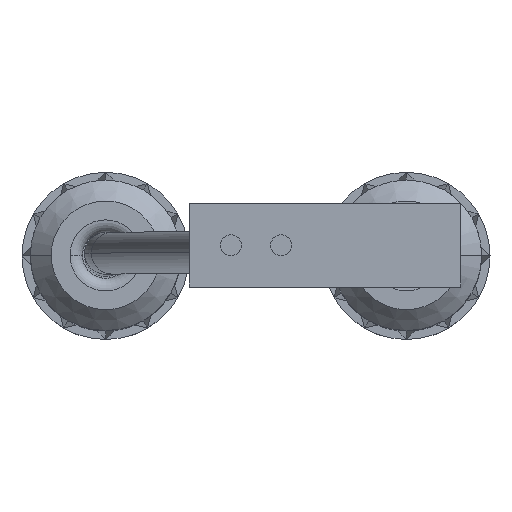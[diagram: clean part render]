
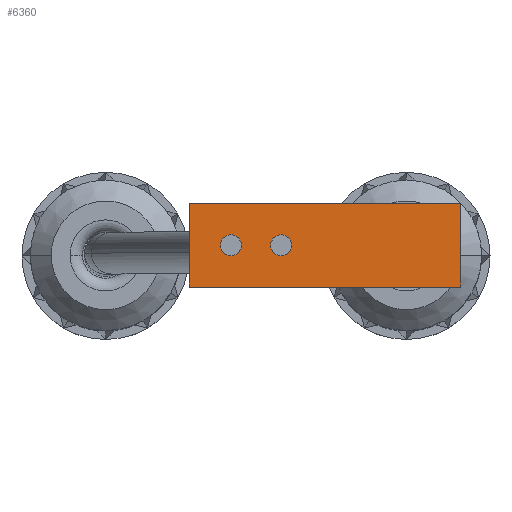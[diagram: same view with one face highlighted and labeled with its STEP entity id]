
A CAD part, top view. The second image highlights one B-rep face of the part: STEP entity #6360.
In plain terms, the highlighted planar face has unit normal (0, 0, 1).
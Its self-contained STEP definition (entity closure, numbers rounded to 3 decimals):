
#10 = CIRCLE ( 'NONE', #4416, 0.25 ) ;
#82 = DIRECTION ( 'NONE',  ( 0., -1., 0. ) ) ;
#326 = ORIENTED_EDGE ( 'NONE', *, *, #5928, .F. ) ;
#415 = AXIS2_PLACEMENT_3D ( 'NONE', #4234, #4761, #5016 ) ;
#538 = LINE ( 'NONE', #4032, #3425 ) ;
#625 = CARTESIAN_POINT ( 'NONE',  ( 23.95, 0., 29. ) ) ;
#651 = PLANE ( 'NONE',  #2775 ) ;
#721 = EDGE_CURVE ( 'NONE', #6226, #3271, #4602, .T. ) ;
#724 = CARTESIAN_POINT ( 'NONE',  ( 22.75, 0., 29. ) ) ;
#737 = CARTESIAN_POINT ( 'NONE',  ( 21.75, 1., 29. ) ) ;
#967 = DIRECTION ( 'NONE',  ( 1., 0., 0. ) ) ;
#976 = LINE ( 'NONE', #737, #1441 ) ;
#1047 = CARTESIAN_POINT ( 'NONE',  ( 23.95, 0.25, 29. ) ) ;
#1106 = EDGE_CURVE ( 'NONE', #1846, #2462, #3218, .T. ) ;
#1107 = VECTOR ( 'NONE', #3657, 1000. ) ;
#1251 = VERTEX_POINT ( 'NONE', #1447 ) ;
#1374 = ORIENTED_EDGE ( 'NONE', *, *, #5630, .F. ) ;
#1378 = CARTESIAN_POINT ( 'NONE',  ( 22.75, 0.25, 29. ) ) ;
#1441 = VECTOR ( 'NONE', #4893, 1000. ) ;
#1447 = CARTESIAN_POINT ( 'NONE',  ( 21.75, -1., 29. ) ) ;
#1455 = CARTESIAN_POINT ( 'NONE',  ( 23.95, 0., 29. ) ) ;
#1494 = EDGE_CURVE ( 'NONE', #3769, #2785, #538, .T. ) ;
#1668 = CARTESIAN_POINT ( 'NONE',  ( 28.25, 1., 29. ) ) ;
#1720 = DIRECTION ( 'NONE',  ( 0., -1., 0. ) ) ;
#1846 = VERTEX_POINT ( 'NONE', #1378 ) ;
#1873 = CARTESIAN_POINT ( 'NONE',  ( 23.95, -0.25, 29. ) ) ;
#1952 = DIRECTION ( 'NONE',  ( 0., 0., 1. ) ) ;
#2034 = AXIS2_PLACEMENT_3D ( 'NONE', #625, #3666, #82 ) ;
#2277 = ORIENTED_EDGE ( 'NONE', *, *, #5152, .T. ) ;
#2318 = LINE ( 'NONE', #3375, #3710 ) ;
#2322 = CARTESIAN_POINT ( 'NONE',  ( 28.25, 1., 29. ) ) ;
#2462 = VERTEX_POINT ( 'NONE', #4442 ) ;
#2612 = EDGE_LOOP ( 'NONE', ( #326, #2855 ) ) ;
#2767 = DIRECTION ( 'NONE',  ( 0., -1., 0. ) ) ;
#2775 = AXIS2_PLACEMENT_3D ( 'NONE', #1668, #5783, #3674 ) ;
#2785 = VERTEX_POINT ( 'NONE', #2322 ) ;
#2855 = ORIENTED_EDGE ( 'NONE', *, *, #1106, .F. ) ;
#2912 = VERTEX_POINT ( 'NONE', #5482 ) ;
#3218 = CIRCLE ( 'NONE', #415, 0.25 ) ;
#3271 = VERTEX_POINT ( 'NONE', #1873 ) ;
#3324 = ORIENTED_EDGE ( 'NONE', *, *, #1494, .F. ) ;
#3375 = CARTESIAN_POINT ( 'NONE',  ( 28.25, 1., 29. ) ) ;
#3425 = VECTOR ( 'NONE', #967, 1000. ) ;
#3613 = CARTESIAN_POINT ( 'NONE',  ( 28.25, -1., 29. ) ) ;
#3657 = DIRECTION ( 'NONE',  ( 1., 0., 0. ) ) ;
#3666 = DIRECTION ( 'NONE',  ( 0., 0., 1. ) ) ;
#3674 = DIRECTION ( 'NONE',  ( 0., -1., 0. ) ) ;
#3710 = VECTOR ( 'NONE', #2767, 1000. ) ;
#3769 = VERTEX_POINT ( 'NONE', #6346 ) ;
#3915 = FACE_BOUND ( 'NONE', #2612, .T. ) ;
#4032 = CARTESIAN_POINT ( 'NONE',  ( 28.25, 1., 29. ) ) ;
#4101 = AXIS2_PLACEMENT_3D ( 'NONE', #1455, #1952, #5557 ) ;
#4109 = EDGE_CURVE ( 'NONE', #1251, #2912, #5535, .T. ) ;
#4234 = CARTESIAN_POINT ( 'NONE',  ( 22.75, 0., 29. ) ) ;
#4269 = ORIENTED_EDGE ( 'NONE', *, *, #5155, .F. ) ;
#4285 = DIRECTION ( 'NONE',  ( 0., 0., 1. ) ) ;
#4416 = AXIS2_PLACEMENT_3D ( 'NONE', #724, #4285, #1720 ) ;
#4442 = CARTESIAN_POINT ( 'NONE',  ( 22.75, -0.25, 29. ) ) ;
#4511 = ORIENTED_EDGE ( 'NONE', *, *, #721, .F. ) ;
#4597 = ORIENTED_EDGE ( 'NONE', *, *, #4109, .T. ) ;
#4602 = CIRCLE ( 'NONE', #4101, 0.25 ) ;
#4761 = DIRECTION ( 'NONE',  ( 0., 0., 1. ) ) ;
#4893 = DIRECTION ( 'NONE',  ( 0., -1., 0. ) ) ;
#5016 = DIRECTION ( 'NONE',  ( 0., -1., 0. ) ) ;
#5152 = EDGE_CURVE ( 'NONE', #3769, #1251, #976, .T. ) ;
#5155 = EDGE_CURVE ( 'NONE', #2785, #2912, #2318, .T. ) ;
#5367 = FACE_OUTER_BOUND ( 'NONE', #5772, .T. ) ;
#5482 = CARTESIAN_POINT ( 'NONE',  ( 28.25, -1., 29. ) ) ;
#5535 = LINE ( 'NONE', #3613, #1107 ) ;
#5557 = DIRECTION ( 'NONE',  ( 0., -1., 0. ) ) ;
#5630 = EDGE_CURVE ( 'NONE', #3271, #6226, #6574, .T. ) ;
#5772 = EDGE_LOOP ( 'NONE', ( #4597, #4269, #3324, #2277 ) ) ;
#5783 = DIRECTION ( 'NONE',  ( 0., 0., -1. ) ) ;
#5928 = EDGE_CURVE ( 'NONE', #2462, #1846, #10, .T. ) ;
#6070 = EDGE_LOOP ( 'NONE', ( #1374, #4511 ) ) ;
#6088 = FACE_BOUND ( 'NONE', #6070, .T. ) ;
#6226 = VERTEX_POINT ( 'NONE', #1047 ) ;
#6346 = CARTESIAN_POINT ( 'NONE',  ( 21.75, 1., 29. ) ) ;
#6360 = ADVANCED_FACE ( 'NONE', ( #5367, #3915, #6088 ), #651, .F. ) ;
#6574 = CIRCLE ( 'NONE', #2034, 0.25 ) ;
